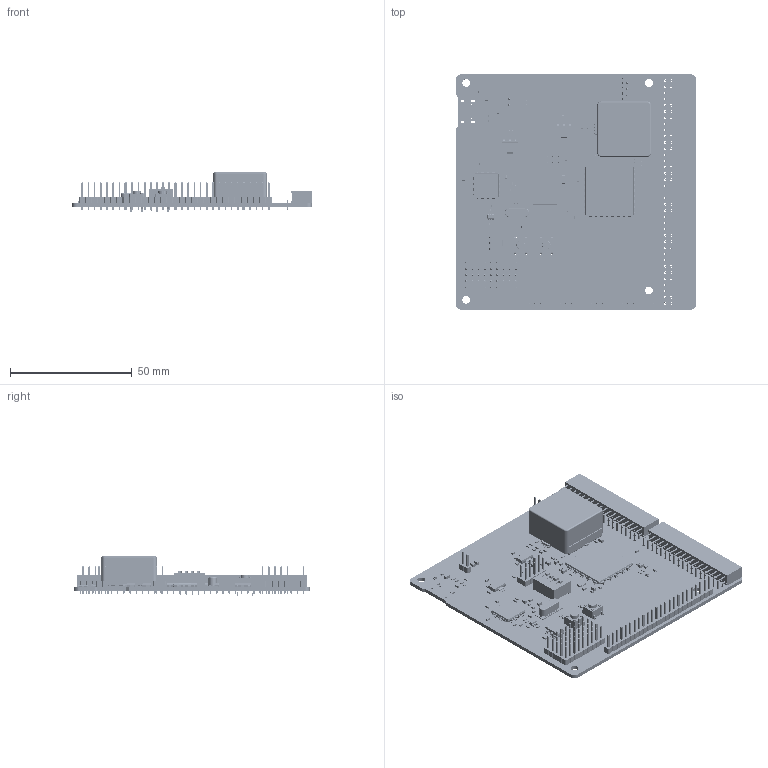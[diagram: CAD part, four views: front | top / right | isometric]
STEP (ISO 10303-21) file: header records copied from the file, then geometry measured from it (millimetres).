
FILE_DESCRIPTION(('KiCad electronic assembly'),'2;1');
FILE_NAME('PP_FPGA_board.step','2021-09-13T01:15:23',('An Author'),( 'A Company'),'Open CASCADE STEP processor 6.9', 'KiCad to STEP converter','Unknown');
FILE_SCHEMA(('AUTOMOTIVE_DESIGN { 1 0 10303 214 1 1 1 1 }'));
Length unit declared in the file: millimetre
Products named in the file (46): Open CASCADE STEP translator 6.9 1; HSOP-8-1EP_3.9x4.9mm_P1.27mm_EP2.41x3.1mm; SOLID; LQFP-144_20x20mm_P0.5mm; PinHeader_1x05_P2.54mm_Vertical; MSOP-16_3x4mm_P0.5mm; PinHeader_1x09_P2.54mm_Vertical; LQFP-64_10x10mm_P0.5mm; C_0603_1608Metric; Crystal_SMD_HC49-SD; C_0805_2012Metric; R_0603_1608Metric; LED_0603_1608Metric; Crystal_SMD_3225-4Pin_3.2x2.5mm_HandSoldering; SW_DIP_SPSTx04_Slide_9.78x12.34mm_W7.62mm_P2.54mm; SW_PUSH_6mm_H5mm; L_Bourns_SRP2313AA; PinSocket_2x18_P2.54mm_Horizontal; PinHeader_1x24_P2.54mm_Vertical; PinHeader_1x02_P2.54mm_Vertical; PinHeader_2x05_P2.54mm_Vertical; SOT-223; SOT-23-6; L_0805_2012Metric; COMPOUND
Assembly tree (139 placements, depth 3):
  Open CASCADE STEP translator 6.9 1
    HSOP-8-1EP_3.9x4.9mm_P1.27mm_EP2.41x3.1mm
      SOLID
    LQFP-144_20x20mm_P0.5mm
      SOLID
    PinHeader_1x05_P2.54mm_Vertical
      SOLID
    MSOP-16_3x4mm_P0.5mm  x3
      SOLID
    PinHeader_1x09_P2.54mm_Vertical  x5
      SOLID
    LQFP-64_10x10mm_P0.5mm
      SOLID
    C_0603_1608Metric  x39
      SOLID
    Crystal_SMD_HC49-SD
      SOLID
    C_0805_2012Metric  x7
      SOLID
    R_0603_1608Metric  x26
      SOLID
    LED_0603_1608Metric  x3
      SOLID
    Crystal_SMD_3225-4Pin_3.2x2.5mm_HandSoldering
      SOLID
    SW_DIP_SPSTx04_Slide_9.78x12.34mm_W7.62mm_P2.54mm
      SOLID
    SW_PUSH_6mm_H5mm  x2
      SOLID
    L_Bourns_SRP2313AA
      SOLID
    PinSocket_2x18_P2.54mm_Horizontal  x2
      SOLID
    PinHeader_1x24_P2.54mm_Vertical
      SOLID
    PinHeader_1x02_P2.54mm_Vertical
      SOLID
    PinHeader_2x05_P2.54mm_Vertical
      SOLID
    SOT-223  x3
      SOLID
    SOT-23-6
      SOLID
    L_0805_2012Metric  x14
      SOLID
    COMPOUND
Bounding box: 98.42 x 96.52 x 16.1 mm (x, y, z)
Volume: 28623.2 mm3; surface area: 35407.3 mm2
Topology: 117 solids, 117 shells, 12355 faces, 32202 edges, 20625 vertices
Faces by surface type: plane 9281, cylinder 2560, bspline 502, torus 12
Full cylindrical faces by diameter (mm): 0.2 x17, 0.5 x5, 0.65 x2, 0.8 x8, 1 x166, 1.1 x8, 1.8 x1, 2 x1, 3.2 x4, 3.5 x2
Entity records: 530163 total; most frequent: CARTESIAN_POINT 108775, DIRECTION 69224, LINE 48885, VECTOR 48885, ORIENTED_EDGE 37090, PCURVE 37090, DEFINITIONAL_REPRESENTATION 37090, EDGE_CURVE 18545
